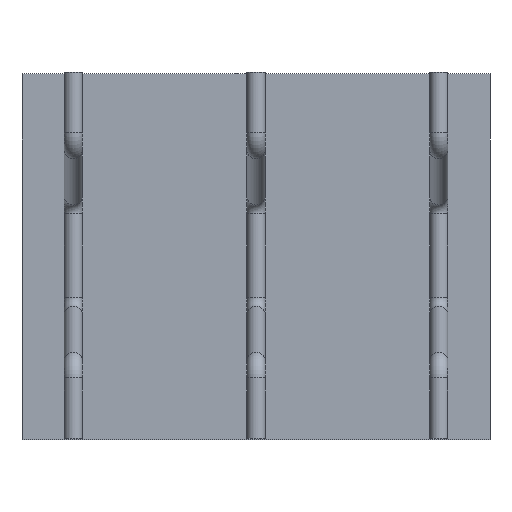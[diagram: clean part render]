
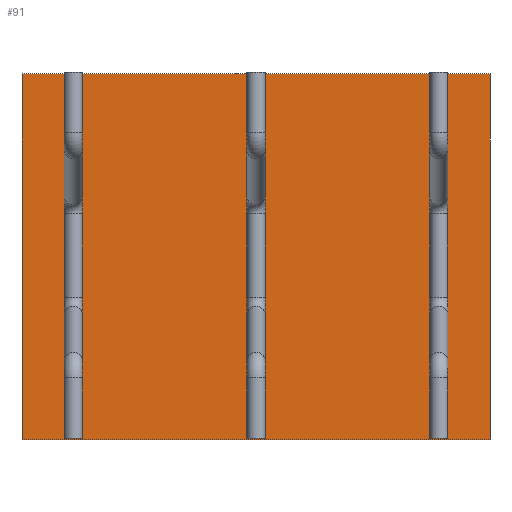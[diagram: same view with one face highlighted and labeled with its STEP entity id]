
A CAD part, top view. The second image highlights one B-rep face of the part: STEP entity #91.
In plain terms, the highlighted planar face has unit normal (0, 0, 1).
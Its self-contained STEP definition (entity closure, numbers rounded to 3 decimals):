
#52=CARTESIAN_POINT('Axis2P3D Location',(0.,0.,0.)) ;
#57=CARTESIAN_POINT('Line Origine',(0.,500.,0.)) ;
#61=CARTESIAN_POINT('Vertex',(640.,500.,0.)) ;
#63=CARTESIAN_POINT('Vertex',(-640.,500.,0.)) ;
#66=CARTESIAN_POINT('Line Origine',(-640.,0.,0.)) ;
#70=CARTESIAN_POINT('Vertex',(-640.,-500.,0.)) ;
#73=CARTESIAN_POINT('Line Origine',(0.,-500.,0.)) ;
#77=CARTESIAN_POINT('Vertex',(640.,-500.,0.)) ;
#80=CARTESIAN_POINT('Line Origine',(640.,0.,0.)) ;
#53=DIRECTION('Axis2P3D Direction',(0.,0.,1.)) ;
#54=DIRECTION('Axis2P3D XDirection',(1.,0.,0.)) ;
#58=DIRECTION('Vector Direction',(1.,0.,0.)) ;
#67=DIRECTION('Vector Direction',(0.,1.,0.)) ;
#74=DIRECTION('Vector Direction',(-1.,0.,0.)) ;
#81=DIRECTION('Vector Direction',(0.,-1.,0.)) ;
#55=AXIS2_PLACEMENT_3D('Plane Axis2P3D',#52,#53,#54) ;
#86=ORIENTED_EDGE('',*,*,#65,.T.) ;
#87=ORIENTED_EDGE('',*,*,#72,.T.) ;
#88=ORIENTED_EDGE('',*,*,#79,.T.) ;
#89=ORIENTED_EDGE('',*,*,#84,.T.) ;
#59=VECTOR('Line Direction',#58,1.) ;
#68=VECTOR('Line Direction',#67,1.) ;
#75=VECTOR('Line Direction',#74,1.) ;
#82=VECTOR('Line Direction',#81,1.) ;
#91=ADVANCED_FACE('Fill.1',(#90),#56,.T.) ;
#65=EDGE_CURVE('',#62,#64,#60,.F.) ;
#72=EDGE_CURVE('',#64,#71,#69,.F.) ;
#79=EDGE_CURVE('',#71,#78,#76,.F.) ;
#84=EDGE_CURVE('',#78,#62,#83,.F.) ;
#85=EDGE_LOOP('',(#86,#87,#88,#89)) ;
#90=FACE_OUTER_BOUND('',#85,.T.) ;
#60=LINE('Line',#57,#59) ;
#69=LINE('Line',#66,#68) ;
#76=LINE('Line',#73,#75) ;
#83=LINE('Line',#80,#82) ;
#56=PLANE('',#55) ;
#62=VERTEX_POINT('',#61) ;
#64=VERTEX_POINT('',#63) ;
#71=VERTEX_POINT('',#70) ;
#78=VERTEX_POINT('',#77) ;
